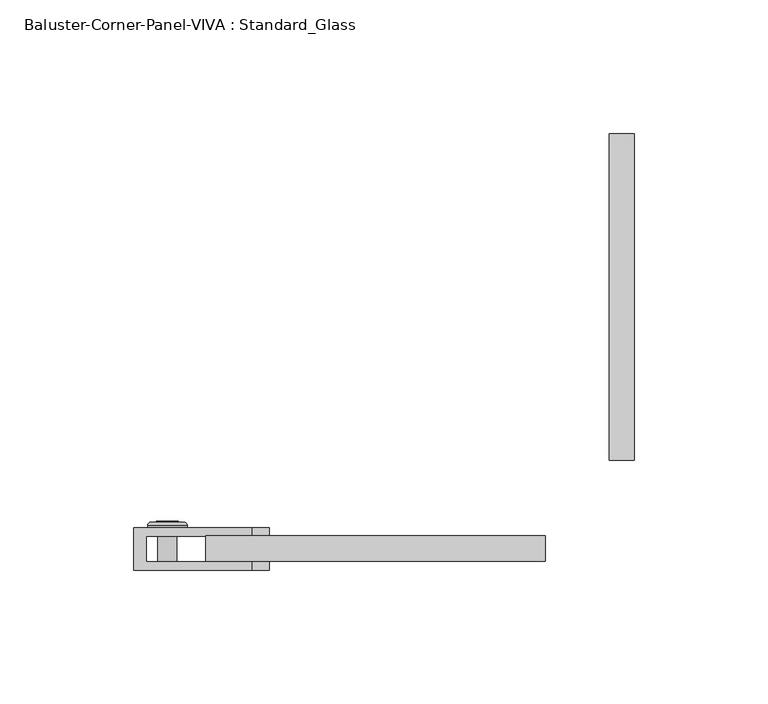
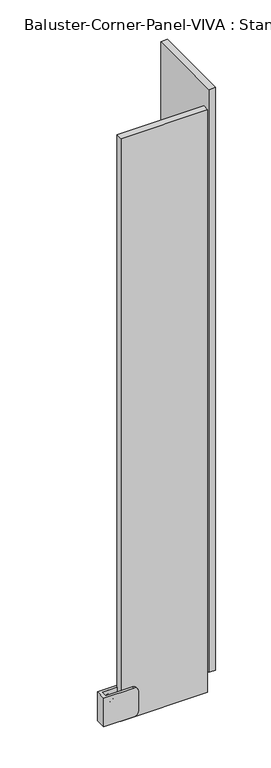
"""IFC4 building model written with IfcOpenShell, lengths in millimetres: railing geometry, Baluster-Corner-Panel-VIVA : Standard_Glass."""

import ifcopenshell
import ifcopenshell.guid

model = None  # the IFC model being written
_history = None  # IfcOwnerHistory: only IFC2X3 demands one
_inside = {}  # id of a spatial element -> (the spatial element, [elements in it])
_under = {}  # id of a project, library or spatial element -> (it, [spatial elements below it])
_declared = {}  # id of a project -> (the project, [libraries it declares])
_typed = {}  # id of a type object -> (the type object, [elements of that type])
_made_of = {}  # id of a material, layer set ... -> (it, [elements and type objects made of it])


def new_model(schema):
    """Start an empty IFC model of exactly this schema.

    Asked for "IFC4X3", IfcOpenShell would pick the latest addendum, in which some entities
    have other attributes; the version numbers below select the first issue.
    IFC2X3 requires an IfcOwnerHistory on every rooted entity: one is made here for all.
    """
    global model, _history
    if schema == "IFC4X3":
        model = ifcopenshell.file(schema_version=(4, 3, 0, 0))
    else:
        model = ifcopenshell.file(schema=schema)
    _inside.clear()
    _under.clear()
    _declared.clear()
    _typed.clear()
    _made_of.clear()
    _history = None
    if model.schema == "IFC2X3":
        org = make("IfcOrganization", Name="unknown")
        user = make(
            "IfcPersonAndOrganization",
            ThePerson=make("IfcPerson", FamilyName="unknown"),
            TheOrganization=org,
        )
        app = make(
            "IfcApplication",
            ApplicationDeveloper=org,
            Version="unknown",
            ApplicationFullName="unknown",
            ApplicationIdentifier="unknown",
        )
        _history = make(
            "IfcOwnerHistory",
            OwningUser=user,
            OwningApplication=app,
            ChangeAction="ADDED",
            CreationDate=0,
        )
    return model


def make(cls, **values):
    """One entity of the class cls with the attributes given. An attribute that is None is left unset."""
    return model.create_entity(
        cls, **{name: value for name, value in values.items() if value is not None}
    )


def rooted(cls, **values):
    """An entity with a GlobalId (a new one), such as an element, a storey or a relation."""
    return make(cls, GlobalId=ifcopenshell.guid.new(), OwnerHistory=_history, **values)


def si_unit(unit_type, name, prefix=None):
    """IfcSIUnit, for example si_unit("LENGTHUNIT", "METRE", prefix="MILLI")."""
    return make("IfcSIUnit", UnitType=unit_type, Prefix=prefix, Name=name)


def assignment(units):
    """IfcUnitAssignment: the units of a project."""
    return None if units is None else make("IfcUnitAssignment", Units=units)


def point(xyz):
    """IfcCartesianPoint."""
    return None if xyz is None else make("IfcCartesianPoint", Coordinates=xyz)


def direction(xyz):
    """IfcDirection."""
    return None if xyz is None else make("IfcDirection", DirectionRatios=xyz)


def frame(location, z_axis=None, x_axis=None):
    """IfcAxis2Placement3D, a coordinate frame: its origin and axes. An axis left out is left unset."""
    return make(
        "IfcAxis2Placement3D",
        Location=point(location),
        Axis=direction(z_axis),
        RefDirection=direction(x_axis),
    )


def origin():
    """The frame at (0, 0, 0) with its axes left unset."""
    return frame((0.0, 0.0, 0.0))


def place(relative_to, where):
    """IfcLocalPlacement: puts the frame where relative to a parent placement (None: the world)."""
    return make(
        "IfcLocalPlacement", PlacementRelTo=relative_to, RelativePlacement=where
    )


def context(
    kind, dimensions, precision=None, world=None, true_north=None, identifier=None
):
    """IfcGeometricRepresentationContext, for example the 3D "Model" context."""
    return make(
        "IfcGeometricRepresentationContext",
        ContextIdentifier=identifier,
        ContextType=kind,
        CoordinateSpaceDimension=dimensions,
        Precision=precision,
        WorldCoordinateSystem=world,
        TrueNorth=true_north,
    )


def project(units=None, contexts=None):
    """IfcProject with its units and contexts."""
    return rooted(
        "IfcProject",
        Name="project",
        RepresentationContexts=contexts,
        UnitsInContext=assignment(units),
    )


def spatial(cls, under=None, at=None, **own):
    """A site, building, storey or space (cls), placed at a placement, below another one or the project."""
    s = rooted(cls, ObjectPlacement=at, **own)
    if under is not None:
        _under.setdefault(under.id(), (under, []))[1].append(s)
    return s


def polyline(points):
    """IfcPolyline through the points."""
    return make("IfcPolyline", Points=[point(p) for p in points])


def circle_curve(where, radius):
    """IfcCircle in the frame where."""
    return make("IfcCircle", Position=where, Radius=radius)


def ellipse_curve(where, semi_axis1, semi_axis2):
    """IfcEllipse in the frame where."""
    return make(
        "IfcEllipse", Position=where, SemiAxis1=semi_axis1, SemiAxis2=semi_axis2
    )


def trimmed(basis, trim1, trim2, sense, master):
    """IfcTrimmedCurve: the piece of a basis curve between two trims."""
    return make(
        "IfcTrimmedCurve",
        BasisCurve=basis,
        Trim1=trim1,
        Trim2=trim2,
        SenseAgreement=sense,
        MasterRepresentation=master,
    )


def outline(outer, holes=None, kind="AREA"):
    """IfcArbitraryClosedProfileDef: a profile drawn as a closed curve; with holes, ...WithVoids."""
    if holes is None:
        return make("IfcArbitraryClosedProfileDef", ProfileType=kind, OuterCurve=outer)
    return make(
        "IfcArbitraryProfileDefWithVoids",
        ProfileType=kind,
        OuterCurve=outer,
        InnerCurves=holes,
    )


def extrude(swept, where, along, depth):
    """IfcExtrudedAreaSolid: the profile swept, set in the frame where, extruded along a direction by depth."""
    return make(
        "IfcExtrudedAreaSolid",
        SweptArea=swept,
        Position=where,
        ExtrudedDirection=direction(along),
        Depth=depth,
    )


def shape(context_of_items, identifier, shape_type, items):
    """IfcShapeRepresentation: the items that make up one representation, for example the "Body"."""
    return make(
        "IfcShapeRepresentation",
        ContextOfItems=context_of_items,
        RepresentationIdentifier=identifier,
        RepresentationType=shape_type,
        Items=items,
    )


def source(mapping_origin, context_of_items, identifier, shape_type, items):
    """IfcRepresentationMap: a shape defined once, which mapped items show again and again."""
    return make(
        "IfcRepresentationMap",
        MappingOrigin=mapping_origin,
        MappedRepresentation=shape(context_of_items, identifier, shape_type, items),
    )


def transform(
    local_origin,
    x_axis=None,
    y_axis=None,
    z_axis=None,
    scale=None,
    scale2=None,
    scale3=None,
    uniform=True,
):
    """IfcCartesianTransformationOperator3D, or its non-uniform kind. x_axis, y_axis, z_axis: its Axis1, 2, 3."""
    if uniform:
        return make(
            "IfcCartesianTransformationOperator3D",
            Axis1=direction(x_axis),
            Axis2=direction(y_axis),
            LocalOrigin=point(local_origin),
            Scale=scale,
            Axis3=direction(z_axis),
        )
    return make(
        "IfcCartesianTransformationOperator3DnonUniform",
        Axis1=direction(x_axis),
        Axis2=direction(y_axis),
        LocalOrigin=point(local_origin),
        Scale=scale,
        Axis3=direction(z_axis),
        Scale2=scale2,
        Scale3=scale3,
    )


def mapped(mapping_source, mapping_target):
    """IfcMappedItem: shows the shape of a source again, moved by a transform."""
    return make(
        "IfcMappedItem", MappingSource=mapping_source, MappingTarget=mapping_target
    )


def made_of(thing, what):
    """Note that an element or type object is made of a material, layer set ...; save() writes the relation."""
    if what is not None:
        _made_of.setdefault(what.id(), (what, []))[1].append(thing)
    return thing


def element(
    cls,
    number,
    at=None,
    inside=None,
    cuts=None,
    type_object=None,
    material=None,
    context=None,
    identifier="Body",
    shape_type=None,
    held_by="IfcProductDefinitionShape",
    body=None,
    shapes=None,
    **own,
):
    """One element of the class cls, such as IfcWall. Its Tag is "e" and its number.

    at: its placement. inside: the storey or other place that contains it. cuts: it is an
    opening in that element (IfcRelVoidsElement). A single representation is given by context,
    identifier, shape_type and body (its items); several are given by shapes. held_by: the class
    of the entity that holds the representations. save() writes the other relations.
    """
    e = rooted(cls, Tag="e%d" % number, ObjectPlacement=at, **own)
    if body is not None:
        shapes = [shape(context, identifier, shape_type, body)]
    if shapes is not None:
        e.Representation = make(held_by, Representations=shapes)
    if inside is not None:
        _inside.setdefault(inside.id(), (inside, []))[1].append(e)
    if cuts is not None:
        rooted(
            "IfcRelVoidsElement", RelatingBuildingElement=cuts, RelatedOpeningElement=e
        )
    if type_object is not None:
        _typed.setdefault(type_object.id(), (type_object, []))[1].append(e)
    return made_of(e, material)


def aggregate(whole, parts):
    """IfcRelAggregates: a whole, such as a stair, and the parts it consists of."""
    return rooted("IfcRelAggregates", RelatingObject=whole, RelatedObjects=parts)


def save(model, path):
    """Write the relations noted so far, then the file.

    IfcRelAggregates (storeys below a building ...), IfcRelContainedInSpatialStructure (elements
    in a storey), IfcRelDefinesByType, IfcRelAssociatesMaterial and IfcRelDeclares: one each for
    every whole, place, type object, material and project.
    """
    for whole, parts in _under.values():
        aggregate(whole, parts)
    for where, things in _inside.values():
        rooted(
            "IfcRelContainedInSpatialStructure",
            RelatedElements=things,
            RelatingStructure=where,
        )
    for kind, things in _typed.values():
        rooted("IfcRelDefinesByType", RelatedObjects=things, RelatingType=kind)
    for what, things in _made_of.values():
        rooted("IfcRelAssociatesMaterial", RelatedObjects=things, RelatingMaterial=what)
    for by, libraries in _declared.values():
        rooted("IfcRelDeclares", RelatingContext=by, RelatedDefinitions=libraries)
    model.write(path)


def plane_surface(at):
    """IfcPlane: the flat surface through the origin of the frame at, square to its z axis."""
    return make("IfcPlane", Position=at)


def cylinder_surface(at, radius):
    """IfcCylindricalSurface: all points at the distance radius from the z axis of the frame at."""
    return make("IfcCylindricalSurface", Position=at, Radius=radius)


def revolved_surface(curve, axis_point, axis_direction):
    """IfcSurfaceOfRevolution: the curve turned about the line through axis_point along axis_direction."""
    return make(
        "IfcSurfaceOfRevolution",
        SweptCurve=make("IfcArbitraryOpenProfileDef", ProfileType="CURVE", Curve=curve),
        AxisPosition=make("IfcAxis1Placement", Location=point(axis_point), Axis=direction(axis_direction)),
    )


def advanced_brep(points, edges, surfaces, faces):
    """IfcAdvancedBrep: a solid bounded by faces that lie on surfaces and meet in shared edges.

    An edge is (start, end): straight between two places in points (the first is 0);
    or (start, end, curve); or (start, end, curve, False) where it runs against its curve.
    A face is (place in surfaces, loops), or (place, loops, False) where it looks against
    its surface's normal. A loop lists edges by number (the first is 1), with a minus sign
    where the edge is run from its end to its start. The first loop is the outer one.
    """
    corners = [point(p) for p in points]
    vertices = [make("IfcVertexPoint", VertexGeometry=c) for c in corners]
    made = []
    for start, end, *more in edges:
        made.append(
            make(
                "IfcEdgeCurve",
                EdgeStart=vertices[start],
                EdgeEnd=vertices[end],
                EdgeGeometry=more[0] if more else make("IfcPolyline", Points=[corners[start], corners[end]]),
                SameSense=more[1] if len(more) > 1 else True,
            )
        )
    hull = []
    for where, loops, *sense in faces:
        bounds = []
        for j, loop in enumerate(loops):
            ring = [make("IfcOrientedEdge", EdgeElement=made[abs(k) - 1], Orientation=k > 0) for k in loop]
            bounds.append(
                make(
                    "IfcFaceOuterBound" if j == 0 else "IfcFaceBound",
                    Bound=make("IfcEdgeLoop", EdgeList=ring),
                    Orientation=True,
                )
            )
        hull.append(make("IfcAdvancedFace", Bounds=bounds, FaceSurface=surfaces[where], SameSense=sense[0] if sense else True))
    return make("IfcAdvancedBrep", Outer=make("IfcClosedShell", CfsFaces=hull))


def baluster_corner_panel_viva_standard_glass_878e4969(model_context):
    return source(origin(), model_context, "Body", "SolidModel", [
        advanced_brep(
        [(-141.6801815, -36.7665, 138.7358896), (-141.6801815, -24.0665, 138.7358896), (-134.5892897, -24.0665, 138.7358896), (-134.5892897, -36.7665, 138.7358896), (-145.5425247, -24.0665, 138.7358896), (-130.7269465, -24.0665, 138.7358896), (-139.790811, -23.199388, 138.7358896), (-139.790811, -36.7665, 138.7358896), (-136.4786602, -36.7665, 138.7358896), (-136.4786602, -23.199388, 138.7358896), (-145.5425247, -23.2316551, 138.7358896), (-144.2612527, -21.9503831, 138.7358896), (-132.0082186, -21.9503831, 138.7358896), (-130.7269465, -23.2316551, 138.7358896), (-142.4333312, -21.9503831, 138.7358896), (-133.8361401, -21.9503831, 138.7358896), (-142.4333312, -23.199388, 138.7358896), (-133.8361401, -23.199388, 138.7358896)],
        [
            (0, 1),
            (1, 2, circle_curve(frame((-138.1347356, -24.0665, 138.7358896), z_axis=(0.0, -1.0, 0.0), x_axis=(1.0, 0.0, 0.0)), 3.5454459)),
            (2, 3),
            (3, 0, circle_curve(frame((-138.1347356, -36.7665, 138.7358896), z_axis=(0.0, 1.0, 0.0), x_axis=(1.0, 0.0, 0.0)), 3.5454459)),
            (2, 1, circle_curve(frame((-138.1347356, -24.0665, 138.7358896), z_axis=(0.0, -1.0, 0.0), x_axis=(1.0, 0.0, 0.0)), 3.5454459)),
            (0, 3, circle_curve(frame((-138.1347356, -36.7665, 138.7358896), z_axis=(0.0, 1.0, 0.0), x_axis=(1.0, 0.0, 0.0)), 3.5454459)),
            (1, 4),
            (4, 5, circle_curve(frame((-138.1347356, -24.0665, 138.7358896), z_axis=(0.0, -1.0, 0.0), x_axis=(1.0, 0.0, 0.0)), 7.4077891)),
            (5, 2),
            (5, 4, circle_curve(frame((-138.1347356, -24.0665, 138.7358896), z_axis=(0.0, -1.0, 0.0), x_axis=(1.0, 0.0, 0.0)), 7.4077891)),
            (6, 7),
            (7, 8, circle_curve(frame((-138.1347356, -36.7665, 138.7358896), z_axis=(0.0, -1.0, 0.0), x_axis=(1.0, 0.0, 0.0)), 1.6560754)),
            (8, 9),
            (9, 6, circle_curve(frame((-138.1347356, -23.199388, 138.7358896), z_axis=(0.0, 1.0, 0.0), x_axis=(1.0, 0.0, 0.0)), 1.6560754)),
            (8, 7, circle_curve(frame((-138.1347356, -36.7665, 138.7358896), z_axis=(0.0, -1.0, 0.0), x_axis=(1.0, 0.0, 0.0)), 1.6560754)),
            (6, 9, circle_curve(frame((-138.1347356, -23.199388, 138.7358896), z_axis=(0.0, 1.0, 0.0), x_axis=(1.0, 0.0, 0.0)), 1.6560754)),
            (10, 11, circle_curve(frame((-144.2612527, -23.2316551, 138.7358896), z_axis=(0.0, 0.0, -1.0), x_axis=(-1.0, 0.0, 0.0)), 1.281272)),
            (11, 12, circle_curve(frame((-138.1347356, -21.9503831, 138.7358896), z_axis=(0.0, -1.0, 0.0), x_axis=(1.0, 0.0, 0.0)), 6.1265171)),
            (12, 13, circle_curve(frame((-132.0082186, -23.2316551, 138.7358896), z_axis=(0.0, 0.0, -1.0), x_axis=(1.0, 0.0, 0.0)), 1.281272)),
            (13, 10, circle_curve(frame((-138.1347356, -23.2316551, 138.7358896), z_axis=(0.0, 1.0, 0.0), x_axis=(1.0, 0.0, 0.0)), 7.4077891)),
            (12, 11, circle_curve(frame((-138.1347356, -21.9503831, 138.7358896), z_axis=(0.0, -1.0, 0.0), x_axis=(1.0, 0.0, 0.0)), 6.1265171)),
            (10, 13, circle_curve(frame((-138.1347356, -23.2316551, 138.7358896), z_axis=(0.0, 1.0, 0.0), x_axis=(1.0, 0.0, 0.0)), 7.4077891)),
            (11, 14),
            (14, 15, circle_curve(frame((-138.1347356, -21.9503831, 138.7358896), z_axis=(0.0, -1.0, 0.0), x_axis=(1.0, 0.0, 0.0)), 4.2985955)),
            (15, 12),
            (15, 14, circle_curve(frame((-138.1347356, -21.9503831, 138.7358896), z_axis=(0.0, -1.0, 0.0), x_axis=(1.0, 0.0, 0.0)), 4.2985955)),
            (4, 10),
            (13, 5),
            (7, 0),
            (3, 8),
            (14, 16),
            (16, 17, circle_curve(frame((-138.1347356, -23.199388, 138.7358896), z_axis=(0.0, -1.0, 0.0), x_axis=(1.0, 0.0, 0.0)), 4.2985955)),
            (17, 15),
            (17, 16, circle_curve(frame((-138.1347356, -23.199388, 138.7358896), z_axis=(0.0, -1.0, 0.0), x_axis=(1.0, 0.0, 0.0)), 4.2985955)),
            (16, 6),
            (9, 17),
        ],
        [
            cylinder_surface(frame((-138.1347356, -27.5632331, 138.7358896), z_axis=(0.0, -1.0, 0.0), x_axis=(1.0, 0.0, 0.0)), 3.5454459),
            plane_surface(frame((-138.1347356, -24.0665, 138.7358896), z_axis=(0.0, -1.0, 0.0), x_axis=(1.0, 0.0, 0.0))),
            revolved_surface(polyline([(-136.4786602, -36.7665, 138.7358896), (-136.4786602, -23.199388, 138.7358896)]), (-138.1347356, -27.5632331, 138.7358896), (0.0, -1.0, 0.0)),
            revolved_surface(trimmed(ellipse_curve(frame((-132.0082186, -23.2316551, 138.7358896), z_axis=(0.0, 0.0, -1.0), x_axis=(1.0, 0.0, 0.0)), 1.281272, 1.281272), [point((-132.0082186, -21.9503831, 138.7358896))], [point((-130.7269465, -23.2316551, 138.7358896))], True, "CARTESIAN"), (-138.1347356, -27.5632331, 138.7358896), (0.0, -1.0, 0.0)),
            plane_surface(frame((-138.1347356, -21.9503831, 138.7358896), z_axis=(0.0, 1.0, 0.0), x_axis=(1.0, 0.0, 0.0))),
            cylinder_surface(frame((-138.1347356, -27.5632331, 138.7358896), z_axis=(0.0, -1.0, 0.0), x_axis=(1.0, 0.0, 0.0)), 7.4077891),
            plane_surface(frame((-138.1347356, -36.7665, 138.7358896), z_axis=(0.0, -1.0, 0.0), x_axis=(1.0, 0.0, 0.0))),
            revolved_surface(polyline([(-133.8361401, -23.199388, 138.7358896), (-133.8361401, -21.9503831, 138.7358896)]), (-138.1347356, -27.5632331, 138.7358896), (0.0, -1.0, 0.0)),
            plane_surface(frame((-138.1347356, -23.199388, 138.7358896), z_axis=(0.0, 1.0, 0.0), x_axis=(1.0, 0.0, 0.0))),
        ],
        [
            (0, [[1, 2, 3, 4]]),
            (0, [[-3, 5, -1, 6]]),
            (1, [[7, 8, 9, -2]]),
            (1, [[-9, 10, -7, -5]]),
            (2, [[11, 12, 13, 14]]),
            (2, [[-13, 15, -11, 16]]),
            (3, [[17, 18, 19, 20]]),
            (3, [[-19, 21, -17, 22]]),
            (4, [[23, 24, 25, -18]]),
            (4, [[-25, 26, -23, -21]]),
            (5, [[27, -20, 28, -8]]),
            (5, [[-28, -22, -27, -10]]),
            (6, [[29, -4, 30, -12]]),
            (6, [[-30, -6, -29, -15]]),
            (7, [[31, 32, 33, -24]]),
            (7, [[-33, 34, -31, -26]]),
            (8, [[35, -14, 36, -32]]),
            (8, [[-36, -16, -35, -34]]),
        ],
    ),
        advanced_brep(
        [(-141.6801815, -36.7665, 114.1296396), (-141.6801815, -24.0665, 114.1296396), (-134.5892897, -24.0665, 114.1296396), (-134.5892897, -36.7665, 114.1296396), (-145.5425247, -24.0665, 114.1296396), (-130.7269465, -24.0665, 114.1296396), (-139.790811, -23.199388, 114.1296396), (-139.790811, -36.7665, 114.1296396), (-136.4786602, -36.7665, 114.1296396), (-136.4786602, -23.199388, 114.1296396), (-145.5425247, -23.2316551, 114.1296396), (-144.2612527, -21.9503831, 114.1296396), (-132.0082186, -21.9503831, 114.1296396), (-130.7269465, -23.2316551, 114.1296396), (-142.4333312, -21.9503831, 114.1296396), (-133.8361401, -21.9503831, 114.1296396), (-142.4333312, -23.199388, 114.1296396), (-133.8361401, -23.199388, 114.1296396)],
        [
            (0, 1),
            (1, 2, circle_curve(frame((-138.1347356, -24.0665, 114.1296396), z_axis=(0.0, -1.0, 0.0), x_axis=(1.0, 0.0, 0.0)), 3.5454459)),
            (2, 3),
            (3, 0, circle_curve(frame((-138.1347356, -36.7665, 114.1296396), z_axis=(0.0, 1.0, 0.0), x_axis=(1.0, 0.0, 0.0)), 3.5454459)),
            (2, 1, circle_curve(frame((-138.1347356, -24.0665, 114.1296396), z_axis=(0.0, -1.0, 0.0), x_axis=(1.0, 0.0, 0.0)), 3.5454459)),
            (0, 3, circle_curve(frame((-138.1347356, -36.7665, 114.1296396), z_axis=(0.0, 1.0, 0.0), x_axis=(1.0, 0.0, 0.0)), 3.5454459)),
            (1, 4),
            (4, 5, circle_curve(frame((-138.1347356, -24.0665, 114.1296396), z_axis=(0.0, -1.0, 0.0), x_axis=(1.0, 0.0, 0.0)), 7.4077891)),
            (5, 2),
            (5, 4, circle_curve(frame((-138.1347356, -24.0665, 114.1296396), z_axis=(0.0, -1.0, 0.0), x_axis=(1.0, 0.0, 0.0)), 7.4077891)),
            (6, 7),
            (7, 8, circle_curve(frame((-138.1347356, -36.7665, 114.1296396), z_axis=(0.0, -1.0, 0.0), x_axis=(1.0, 0.0, 0.0)), 1.6560754)),
            (8, 9),
            (9, 6, circle_curve(frame((-138.1347356, -23.199388, 114.1296396), z_axis=(0.0, 1.0, 0.0), x_axis=(1.0, 0.0, 0.0)), 1.6560754)),
            (8, 7, circle_curve(frame((-138.1347356, -36.7665, 114.1296396), z_axis=(0.0, -1.0, 0.0), x_axis=(1.0, 0.0, 0.0)), 1.6560754)),
            (6, 9, circle_curve(frame((-138.1347356, -23.199388, 114.1296396), z_axis=(0.0, 1.0, 0.0), x_axis=(1.0, 0.0, 0.0)), 1.6560754)),
            (10, 11, circle_curve(frame((-144.2612527, -23.2316551, 114.1296396), z_axis=(0.0, 0.0, -1.0), x_axis=(-1.0, 0.0, 0.0)), 1.281272)),
            (11, 12, circle_curve(frame((-138.1347356, -21.9503831, 114.1296396), z_axis=(0.0, -1.0, 0.0), x_axis=(1.0, 0.0, 0.0)), 6.1265171)),
            (12, 13, circle_curve(frame((-132.0082186, -23.2316551, 114.1296396), z_axis=(0.0, 0.0, -1.0), x_axis=(1.0, 0.0, 0.0)), 1.281272)),
            (13, 10, circle_curve(frame((-138.1347356, -23.2316551, 114.1296396), z_axis=(0.0, 1.0, 0.0), x_axis=(1.0, 0.0, 0.0)), 7.4077891)),
            (12, 11, circle_curve(frame((-138.1347356, -21.9503831, 114.1296396), z_axis=(0.0, -1.0, 0.0), x_axis=(1.0, 0.0, 0.0)), 6.1265171)),
            (10, 13, circle_curve(frame((-138.1347356, -23.2316551, 114.1296396), z_axis=(0.0, 1.0, 0.0), x_axis=(1.0, 0.0, 0.0)), 7.4077891)),
            (11, 14),
            (14, 15, circle_curve(frame((-138.1347356, -21.9503831, 114.1296396), z_axis=(0.0, -1.0, 0.0), x_axis=(1.0, 0.0, 0.0)), 4.2985955)),
            (15, 12),
            (15, 14, circle_curve(frame((-138.1347356, -21.9503831, 114.1296396), z_axis=(0.0, -1.0, 0.0), x_axis=(1.0, 0.0, 0.0)), 4.2985955)),
            (7, 0),
            (3, 8),
            (4, 10),
            (13, 5),
            (14, 16),
            (16, 17, circle_curve(frame((-138.1347356, -23.199388, 114.1296396), z_axis=(0.0, -1.0, 0.0), x_axis=(1.0, 0.0, 0.0)), 4.2985955)),
            (17, 15),
            (17, 16, circle_curve(frame((-138.1347356, -23.199388, 114.1296396), z_axis=(0.0, -1.0, 0.0), x_axis=(1.0, 0.0, 0.0)), 4.2985955)),
            (16, 6),
            (9, 17),
        ],
        [
            cylinder_surface(frame((-138.1347356, -27.5632331, 114.1296396), z_axis=(0.0, -1.0, 0.0), x_axis=(1.0, 0.0, 0.0)), 3.5454459),
            plane_surface(frame((-138.1347356, -24.0665, 114.1296396), z_axis=(0.0, -1.0, 0.0), x_axis=(1.0, 0.0, 0.0))),
            revolved_surface(polyline([(-136.4786602, -36.7665, 114.1296396), (-136.4786602, -23.199388, 114.1296396)]), (-138.1347356, -27.5632331, 114.1296396), (0.0, -1.0, 0.0)),
            revolved_surface(trimmed(ellipse_curve(frame((-132.0082186, -23.2316551, 114.1296396), z_axis=(0.0, 0.0, -1.0), x_axis=(1.0, 0.0, 0.0)), 1.281272, 1.281272), [point((-132.0082186, -21.9503831, 114.1296396))], [point((-130.7269465, -23.2316551, 114.1296396))], True, "CARTESIAN"), (-138.1347356, -27.5632331, 114.1296396), (0.0, -1.0, 0.0)),
            plane_surface(frame((-138.1347356, -21.9503831, 114.1296396), z_axis=(0.0, 1.0, 0.0), x_axis=(1.0, 0.0, 0.0))),
            plane_surface(frame((-138.1347356, -36.7665, 114.1296396), z_axis=(0.0, -1.0, 0.0), x_axis=(1.0, 0.0, 0.0))),
            cylinder_surface(frame((-138.1347356, -27.5632331, 114.1296396), z_axis=(0.0, -1.0, 0.0), x_axis=(1.0, 0.0, 0.0)), 7.4077891),
            revolved_surface(polyline([(-133.8361401, -23.199388, 114.1296396), (-133.8361401, -21.9503831, 114.1296396)]), (-138.1347356, -27.5632331, 114.1296396), (0.0, -1.0, 0.0)),
            plane_surface(frame((-138.1347356, -23.199388, 114.1296396), z_axis=(0.0, 1.0, 0.0), x_axis=(1.0, 0.0, 0.0))),
        ],
        [
            (0, [[1, 2, 3, 4]]),
            (0, [[-3, 5, -1, 6]]),
            (1, [[7, 8, 9, -2]]),
            (1, [[-9, 10, -7, -5]]),
            (2, [[11, 12, 13, 14]]),
            (2, [[-13, 15, -11, 16]]),
            (3, [[17, 18, 19, 20]]),
            (3, [[-19, 21, -17, 22]]),
            (4, [[23, 24, 25, -18]]),
            (4, [[-25, 26, -23, -21]]),
            (5, [[27, -4, 28, -12]]),
            (5, [[-28, -6, -27, -15]]),
            (6, [[29, -20, 30, -8]]),
            (6, [[-30, -22, -29, -10]]),
            (7, [[31, 32, 33, -24]]),
            (7, [[-33, 34, -31, -26]]),
            (8, [[35, -14, 36, -32]]),
            (8, [[-36, -16, -35, -34]]),
        ],
    ),
        extrude(outline(polyline([(114.1296396, -142.2286639), (110.5841937, -140.1816998), (110.5841937, -136.0877715), (114.1296396, -134.0408073), (117.6750855, -136.0877715), (117.6750855, -140.1816998), (114.1296396, -142.2286639)])), frame((0.0, -23.199388, 0.0), z_axis=(0.0, 1.0, 0.0), x_axis=(0.0, 0.0, 1.0)), (0.0, 0.0, 1.0), 1.4969696),
        advanced_brep(
        [(-150.7680804, -24.0665, 148.6577646), (-106.3180804, -24.0665, 148.6577646), (-99.9680804, -24.0665, 142.3077646), (-99.9680804, -24.0665, 110.5577646), (-106.3180804, -24.0665, 104.2077646), (-150.7680804, -24.0665, 104.2077646), (-150.7680804, -39.9415, 148.6577646), (-150.7680804, -39.9415, 104.2077646), (-106.3180804, -39.9415, 104.2077646), (-99.9680804, -39.9415, 110.5577646), (-99.9680804, -39.9415, 142.3077646), (-106.3180804, -39.9415, 148.6577646), (-106.3180804, -27.2415, 104.2077646), (-146.05, -27.2415, 104.2077646), (-146.05, -36.7665, 104.2077646), (-106.3180804, -36.7665, 104.2077646), (-146.05, -27.2415, 148.6577646), (-146.05, -36.7665, 148.6577646), (-99.9680804, -27.2415, 110.5577646), (-99.9680804, -27.2415, 142.3077646), (-106.3180804, -27.2415, 148.6577646), (-106.3180804, -36.7665, 148.6577646), (-99.9680804, -36.7665, 142.3077646), (-99.9680804, -36.7665, 110.5577646)],
        [
            (0, 1),
            (1, 2, circle_curve(frame((-106.3180804, -24.0665, 142.3077646), z_axis=(0.0, 1.0, 0.0), x_axis=(1.0, 0.0, 0.0)), 6.35)),
            (2, 3),
            (3, 4, circle_curve(frame((-106.3180804, -24.0665, 110.5577646), z_axis=(0.0, 1.0, 0.0), x_axis=(1.0, 0.0, 0.0)), 6.35)),
            (4, 5),
            (5, 0),
            (6, 7),
            (7, 8),
            (8, 9, circle_curve(frame((-106.3180804, -39.9415, 110.5577646), z_axis=(0.0, -1.0, 0.0), x_axis=(1.0, 0.0, 0.0)), 6.35)),
            (9, 10),
            (10, 11, circle_curve(frame((-106.3180804, -39.9415, 142.3077646), z_axis=(0.0, -1.0, 0.0), x_axis=(1.0, 0.0, 0.0)), 6.35)),
            (11, 6),
            (5, 7),
            (6, 0),
            (4, 12),
            (12, 13),
            (13, 14),
            (14, 15),
            (15, 8),
            (13, 16),
            (16, 17),
            (17, 14),
            (12, 18, circle_curve(frame((-106.3180804, -27.2415, 110.5577646), z_axis=(0.0, -1.0, 0.0), x_axis=(1.0, 0.0, 0.0)), 6.35)),
            (18, 19),
            (19, 20, circle_curve(frame((-106.3180804, -27.2415, 142.3077646), z_axis=(0.0, -1.0, 0.0), x_axis=(1.0, 0.0, 0.0)), 6.35)),
            (20, 16),
            (17, 21),
            (21, 22, circle_curve(frame((-106.3180804, -36.7665, 142.3077646), z_axis=(0.0, 1.0, 0.0), x_axis=(1.0, 0.0, 0.0)), 6.35)),
            (22, 23),
            (23, 15, circle_curve(frame((-106.3180804, -36.7665, 110.5577646), z_axis=(0.0, 1.0, 0.0), x_axis=(1.0, 0.0, 0.0)), 6.35)),
            (23, 9),
            (3, 18),
            (22, 10),
            (2, 19),
            (21, 11),
            (1, 20),
        ],
        [
            plane_surface(frame((-150.7680804, -24.0665, 104.2077646), z_axis=(0.0, 1.0, 0.0), x_axis=(0.0, 0.0, -1.0))),
            plane_surface(frame((-150.7680804, -39.9415, 104.2077646), z_axis=(0.0, -1.0, 0.0), x_axis=(0.0, 0.0, 1.0))),
            plane_surface(frame((-150.7680804, -24.0665, 148.6577646), z_axis=(-1.0, 0.0, 0.0), x_axis=(0.0, -1.0, 0.0))),
            plane_surface(frame((-150.7680804, -24.0665, 104.2077646), z_axis=(0.0, 0.0, -1.0), x_axis=(0.0, -1.0, 0.0))),
            plane_surface(frame((-146.05, -36.7665, 161.3577646), z_axis=(1.0, 0.0, 0.0), x_axis=(0.0, 0.0, -1.0))),
            plane_surface(frame((-146.05, -27.2415, 161.3577646), z_axis=(0.0, -1.0, 0.0), x_axis=(0.0, 0.0, -1.0))),
            plane_surface(frame((-87.2680804, -36.7665, 161.3577646), z_axis=(0.0, 1.0, 0.0), x_axis=(0.0, 0.0, -1.0))),
            cylinder_surface(frame((-106.3180804, -39.9415, 110.5577646), z_axis=(0.0, 1.0, 0.0), x_axis=(1.0, 0.0, 0.0)), 6.35),
            plane_surface(frame((-99.9680804, -24.0665, 110.5577646), z_axis=(1.0, 0.0, 0.0), x_axis=(0.0, -1.0, 0.0))),
            cylinder_surface(frame((-106.3180804, -39.9415, 142.3077646), z_axis=(0.0, 1.0, 0.0), x_axis=(1.0, 0.0, 0.0)), 6.35),
            plane_surface(frame((-106.3180804, -24.0665, 148.6577646), z_axis=(0.0, 0.0, 1.0), x_axis=(0.0, -1.0, 0.0))),
        ],
        [
            (0, [[1, 2, 3, 4, 5, 6]]),
            (1, [[7, 8, 9, 10, 11, 12]]),
            (2, [[13, -7, 14, -6]]),
            (3, [[15, 16, 17, 18, 19, -8, -13, -5]]),
            (4, [[-17, 20, 21, 22]]),
            (5, [[-16, 23, 24, 25, 26, -20]]),
            (6, [[27, 28, 29, 30, -18, -22]]),
            (7, [[-19, -30, 31, -9]]),
            (7, [[32, -23, -15, -4]]),
            (8, [[-31, -29, 33, -10]]),
            (8, [[34, -24, -32, -3]]),
            (9, [[-33, -28, 35, -11]]),
            (9, [[36, -25, -34, -2]]),
            (10, [[-14, -12, -35, -27, -21, -26, -36, -1]]),
        ],
    ),
        extrude(outline(polyline([(36.7665, 1.0851207), (27.2415, 1.0851207), (27.2415, 123.3489532), (36.7665, 123.3489532), (36.7665, 1.0851207)])), frame((0.0, 0.0, 101.6), z_axis=(0.0, 0.0, 1.0), x_axis=(1.0, 0.0, 0.0)), (0.0, 0.0, 1.0), 901.7),
        extrude(outline(polyline([(-123.825, -36.7665), (-123.825, -27.2415), (3.429, -27.2415), (3.429, -36.7665), (-123.825, -36.7665)])), frame((0.0, 0.0, 101.6), z_axis=(0.0, 0.0, 1.0), x_axis=(1.0, 0.0, 0.0)), (0.0, 0.0, 1.0), 901.7),
    ])


if __name__ == "__main__":
    model = new_model("IFC4")
    model_context = context("Model", 3, world=origin())
    ifc_project = project(units=[si_unit("LENGTHUNIT", "METRE", prefix="MILLI")], contexts=[model_context])
    site = spatial("IfcSite", under=ifc_project)
    building = spatial("IfcBuilding", under=site)
    placement = place(None, origin())
    baluster_corner_panel_viva_standard_glass_shape = baluster_corner_panel_viva_standard_glass_878e4969(model_context)
    element("IfcRailing", 1, ObjectType="Baluster-Corner-Panel-VIVA : Standard_Glass", at=placement, inside=building, context=model_context, shape_type="MappedRepresentation", body=[
        mapped(baluster_corner_panel_viva_standard_glass_shape, transform((0.0, 0.0, 0.0), x_axis=(1.0, 0.0, 0.0), y_axis=(0.0, 1.0, 0.0), z_axis=(0.0, 0.0, 1.0))),
    ])
    save(model, "model.ifc")
